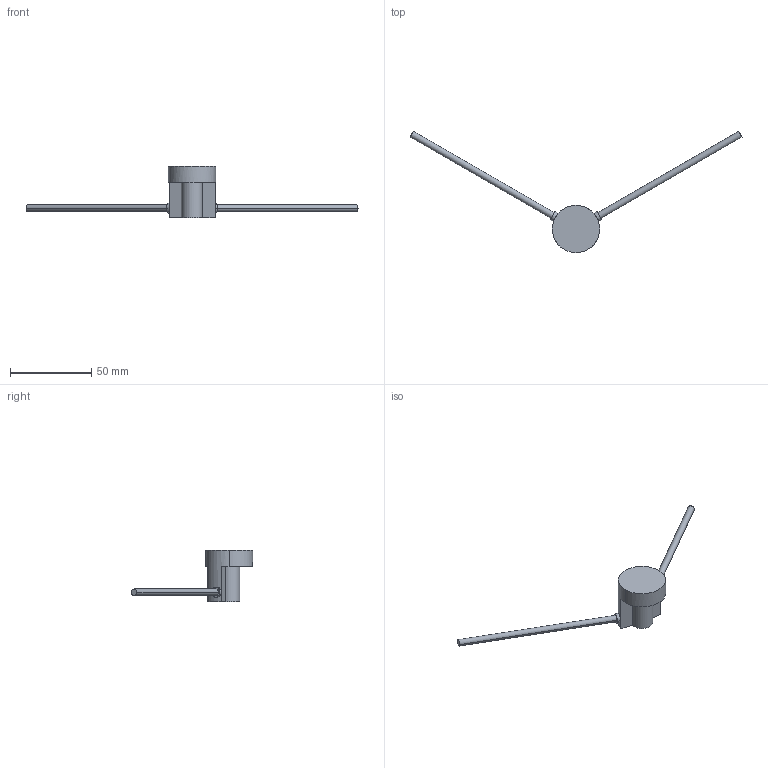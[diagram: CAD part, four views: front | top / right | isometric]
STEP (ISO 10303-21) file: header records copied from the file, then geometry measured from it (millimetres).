
FILE_DESCRIPTION (( 'STEP AP203' ), '1' );
FILE_NAME ('FU-1PRNA.STEP', '2016-06-21T01:06:18', ( '' ), ( '' ), 'SwSTEP 2.0', 'SolidWorks 2014', '' );
FILE_SCHEMA (( 'CONFIG_CONTROL_DESIGN' ));
Length unit declared in the file: metre
Products named in the file (1): FU-1PRNA
Bounding box: 203.78 x 74.48 x 31.9 mm (x, y, z)
Volume: 15347.9 mm3; surface area: 6835.1 mm2
Topology: 3 solids, 3 shells, 26 faces, 54 edges, 36 vertices
Faces by surface type: plane 14, cylinder 12
Entity records: 779 total; most frequent: DIRECTION 136, CARTESIAN_POINT 117, ORIENTED_EDGE 108, AXIS2_PLACEMENT_3D 55, EDGE_CURVE 54, VERTEX_POINT 36, EDGE_LOOP 28, CIRCLE 28
